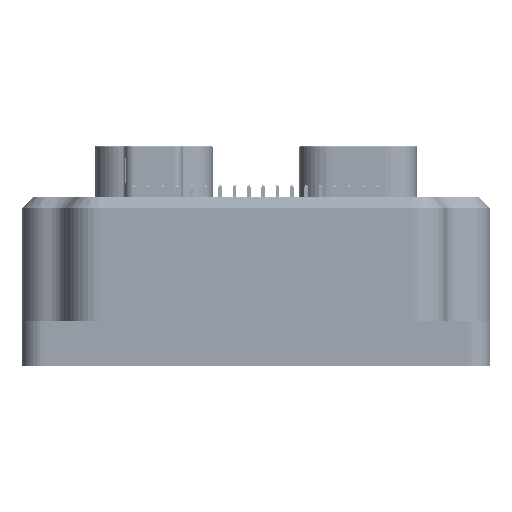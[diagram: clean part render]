
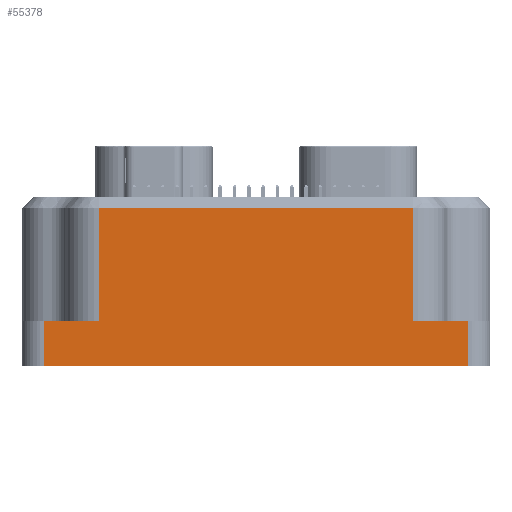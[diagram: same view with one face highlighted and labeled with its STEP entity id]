
A CAD part, left-side view. The second image highlights one B-rep face of the part: STEP entity #55378.
In plain terms, the highlighted planar face has unit normal (-1, 0, 0).
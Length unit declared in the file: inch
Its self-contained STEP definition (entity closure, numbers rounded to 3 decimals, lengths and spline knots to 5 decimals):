
#862 = ORIENTED_EDGE ( 'NONE', *, *, #60113, .F. ) ;
#1092 = DIRECTION ( 'NONE',  ( 0., 0., -1. ) ) ;
#2443 = VERTEX_POINT ( 'NONE', #40667 ) ;
#3209 = CARTESIAN_POINT ( 'NONE',  ( -4.94094, 1.09414, 0.31496 ) ) ;
#4252 = CARTESIAN_POINT ( 'NONE',  ( -4.94094, -1.47795, 1.1811 ) ) ;
#5250 = LINE ( 'NONE', #13157, #19232 ) ;
#6492 = CARTESIAN_POINT ( 'NONE',  ( -4.94094, 1.09414, 1.10236 ) ) ;
#6736 = CARTESIAN_POINT ( 'NONE',  ( -4.94094, -1.09414, 12.12598 ) ) ;
#7695 = AXIS2_PLACEMENT_3D ( 'NONE', #59084, #16761, #1092 ) ;
#7798 = DIRECTION ( 'NONE',  ( 0., 0., -1. ) ) ;
#8481 = DIRECTION ( 'NONE',  ( 0., -1., 0. ) ) ;
#9490 = VECTOR ( 'NONE', #10551, 39.37008 ) ;
#9513 = DIRECTION ( 'NONE',  ( 0., 0., -1. ) ) ;
#9704 = EDGE_CURVE ( 'NONE', #61094, #54933, #36474, .T. ) ;
#10551 = DIRECTION ( 'NONE',  ( 0., -1., 0. ) ) ;
#11539 = CARTESIAN_POINT ( 'NONE',  ( -4.94094, -1.47795, 0. ) ) ;
#12020 = EDGE_CURVE ( 'NONE', #62326, #50144, #45454, .T. ) ;
#13157 = CARTESIAN_POINT ( 'NONE',  ( -4.94094, 1.09414, 12.12598 ) ) ;
#13777 = CARTESIAN_POINT ( 'NONE',  ( -4.94094, -1.47795, 0. ) ) ;
#14946 = EDGE_CURVE ( 'NONE', #62326, #2443, #46355, .T. ) ;
#15493 = ORIENTED_EDGE ( 'NONE', *, *, #44352, .T. ) ;
#16761 = DIRECTION ( 'NONE',  ( 1., 0., 0. ) ) ;
#16993 = ORIENTED_EDGE ( 'NONE', *, *, #12020, .F. ) ;
#17582 = CARTESIAN_POINT ( 'NONE',  ( -4.94094, 1.47795, 0. ) ) ;
#18724 = EDGE_LOOP ( 'NONE', ( #16993, #62189, #28323, #862, #15493, #52546, #22887, #21303 ) ) ;
#19232 = VECTOR ( 'NONE', #23950, 39.37008 ) ;
#19678 = EDGE_CURVE ( 'NONE', #54469, #54933, #30116, .T. ) ;
#20471 = CARTESIAN_POINT ( 'NONE',  ( -4.94094, 1.09414, 0.31496 ) ) ;
#21303 = ORIENTED_EDGE ( 'NONE', *, *, #57180, .F. ) ;
#22378 = VECTOR ( 'NONE', #24350, 39.37008 ) ;
#22887 = ORIENTED_EDGE ( 'NONE', *, *, #19678, .F. ) ;
#23418 = CARTESIAN_POINT ( 'NONE',  ( -4.94094, 1.47795, 1.1811 ) ) ;
#23950 = DIRECTION ( 'NONE',  ( 0., 0., -1. ) ) ;
#24003 = LINE ( 'NONE', #23418, #36409 ) ;
#24350 = DIRECTION ( 'NONE',  ( 0., -1., 0. ) ) ;
#25473 = CARTESIAN_POINT ( 'NONE',  ( -4.94094, -1.09414, 0.31496 ) ) ;
#28323 = ORIENTED_EDGE ( 'NONE', *, *, #29750, .T. ) ;
#28330 = VERTEX_POINT ( 'NONE', #20471 ) ;
#28366 = CARTESIAN_POINT ( 'NONE',  ( -4.94094, -1.09414, 1.10236 ) ) ;
#29750 = EDGE_CURVE ( 'NONE', #2443, #28330, #5250, .T. ) ;
#30116 = LINE ( 'NONE', #4252, #42495 ) ;
#30599 = VERTEX_POINT ( 'NONE', #41228 ) ;
#30637 = VECTOR ( 'NONE', #59419, 39.37008 ) ;
#30690 = LINE ( 'NONE', #3209, #43045 ) ;
#36409 = VECTOR ( 'NONE', #7798, 39.37008 ) ;
#36474 = LINE ( 'NONE', #13777, #22378 ) ;
#40667 = CARTESIAN_POINT ( 'NONE',  ( -4.94094, 1.09414, 1.10236 ) ) ;
#41228 = CARTESIAN_POINT ( 'NONE',  ( -4.94094, 1.47795, 0.31496 ) ) ;
#41968 = CARTESIAN_POINT ( 'NONE',  ( -4.94094, -1.09414, 0.31496 ) ) ;
#42495 = VECTOR ( 'NONE', #9513, 39.37008 ) ;
#43045 = VECTOR ( 'NONE', #8481, 39.37008 ) ;
#44352 = EDGE_CURVE ( 'NONE', #30599, #61094, #24003, .T. ) ;
#45454 = LINE ( 'NONE', #6736, #57887 ) ;
#46355 = LINE ( 'NONE', #6492, #30637 ) ;
#47535 = LINE ( 'NONE', #41968, #9490 ) ;
#47935 = FACE_OUTER_BOUND ( 'NONE', #18724, .T. ) ;
#50144 = VERTEX_POINT ( 'NONE', #25473 ) ;
#52546 = ORIENTED_EDGE ( 'NONE', *, *, #9704, .T. ) ;
#54469 = VERTEX_POINT ( 'NONE', #61289 ) ;
#54933 = VERTEX_POINT ( 'NONE', #11539 ) ;
#55378 = ADVANCED_FACE ( 'NONE', ( #47935 ), #64314, .F. ) ;
#57180 = EDGE_CURVE ( 'NONE', #50144, #54469, #47535, .T. ) ;
#57887 = VECTOR ( 'NONE', #59437, 39.37008 ) ;
#59084 = CARTESIAN_POINT ( 'NONE',  ( -4.94094, -1.47795, 1.1811 ) ) ;
#59419 = DIRECTION ( 'NONE',  ( 0., 1., 0. ) ) ;
#59437 = DIRECTION ( 'NONE',  ( 0., 0., -1. ) ) ;
#60113 = EDGE_CURVE ( 'NONE', #30599, #28330, #30690, .T. ) ;
#61094 = VERTEX_POINT ( 'NONE', #17582 ) ;
#61289 = CARTESIAN_POINT ( 'NONE',  ( -4.94094, -1.47795, 0.31496 ) ) ;
#62189 = ORIENTED_EDGE ( 'NONE', *, *, #14946, .T. ) ;
#62326 = VERTEX_POINT ( 'NONE', #28366 ) ;
#64314 = PLANE ( 'NONE',  #7695 ) ;
